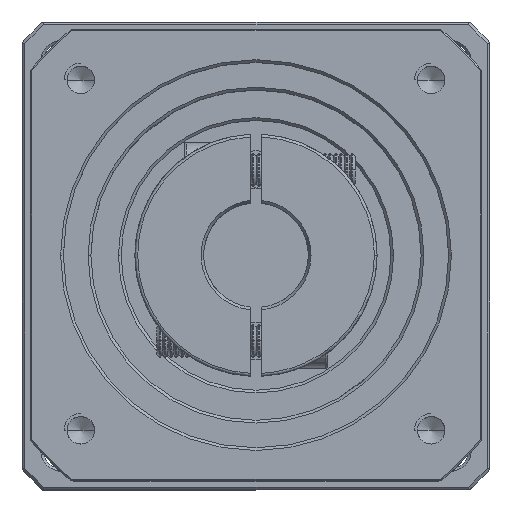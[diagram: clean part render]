
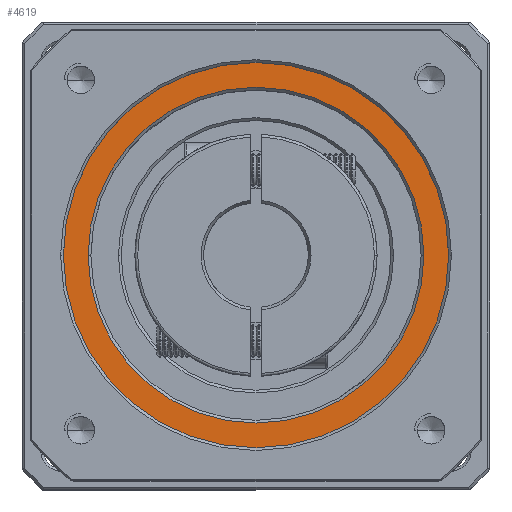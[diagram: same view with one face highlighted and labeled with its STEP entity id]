
A CAD part, top view. The second image highlights one B-rep face of the part: STEP entity #4619.
In plain terms, the highlighted planar face has unit normal (0, 0, 1).
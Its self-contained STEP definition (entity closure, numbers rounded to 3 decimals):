
#4619 = ADVANCED_FACE ( 'NONE', ( #21320, #60073 ), #119849, .T. ) ;
#6079 = CARTESIAN_POINT ( 'NONE',  ( -50.756, 39.269, -4.755 ) ) ;
#11914 = VERTEX_POINT ( 'NONE', #85105 ) ;
#12645 = DIRECTION ( 'NONE',  ( 1., 0., 0. ) ) ;
#13908 = AXIS2_PLACEMENT_3D ( 'NONE', #42935, #72434, #12645 ) ;
#17000 = EDGE_CURVE ( 'NONE', #33779, #117744, #90610, .T. ) ;
#19275 = AXIS2_PLACEMENT_3D ( 'NONE', #103544, #44034, #74389 ) ;
#19852 = CIRCLE ( 'NONE', #19275, 30.5 ) ;
#20636 = DIRECTION ( 'NONE',  ( 0., 0., -1. ) ) ;
#21066 = CARTESIAN_POINT ( 'NONE',  ( -50.756, 39.269, -4.755 ) ) ;
#21320 = FACE_OUTER_BOUND ( 'NONE', #92755, .T. ) ;
#29185 = DIRECTION ( 'NONE',  ( 1., 0., 0. ) ) ;
#32794 = CARTESIAN_POINT ( 'NONE',  ( -81.256, 39.269, -4.755 ) ) ;
#33779 = VERTEX_POINT ( 'NONE', #118832 ) ;
#34130 = ORIENTED_EDGE ( 'NONE', *, *, #108036, .T. ) ;
#34806 = EDGE_LOOP ( 'NONE', ( #86520, #34130 ) ) ;
#37414 = VERTEX_POINT ( 'NONE', #107586 ) ;
#42935 = CARTESIAN_POINT ( 'NONE',  ( -50.756, 39.269, -4.755 ) ) ;
#44034 = DIRECTION ( 'NONE',  ( 0., 0., -1. ) ) ;
#54991 = DIRECTION ( 'NONE',  ( 0., 0., 1. ) ) ;
#58602 = CARTESIAN_POINT ( 'NONE',  ( -50.756, 39.269, -4.755 ) ) ;
#60073 = FACE_BOUND ( 'NONE', #34806, .T. ) ;
#64582 = DIRECTION ( 'NONE',  ( 1., 0., 0. ) ) ;
#64718 = ORIENTED_EDGE ( 'NONE', *, *, #119620, .T. ) ;
#72434 = DIRECTION ( 'NONE',  ( 0., 0., 1. ) ) ;
#74389 = DIRECTION ( 'NONE',  ( 1., 0., 0. ) ) ;
#85105 = CARTESIAN_POINT ( 'NONE',  ( -85.756, 39.269, -4.755 ) ) ;
#86520 = ORIENTED_EDGE ( 'NONE', *, *, #17000, .T. ) ;
#87815 = DIRECTION ( 'NONE',  ( 0., 0., 1. ) ) ;
#88717 = CIRCLE ( 'NONE', #125216, 35. ) ;
#90550 = DIRECTION ( 'NONE',  ( 1., 0., 0. ) ) ;
#90610 = CIRCLE ( 'NONE', #122203, 30.5 ) ;
#92755 = EDGE_LOOP ( 'NONE', ( #64718, #125682 ) ) ;
#103544 = CARTESIAN_POINT ( 'NONE',  ( -50.756, 39.269, -4.755 ) ) ;
#107586 = CARTESIAN_POINT ( 'NONE',  ( -15.756, 39.269, -4.755 ) ) ;
#108036 = EDGE_CURVE ( 'NONE', #117744, #33779, #19852, .T. ) ;
#110380 = AXIS2_PLACEMENT_3D ( 'NONE', #58602, #87815, #29185 ) ;
#117744 = VERTEX_POINT ( 'NONE', #32794 ) ;
#118832 = CARTESIAN_POINT ( 'NONE',  ( -20.256, 39.269, -4.755 ) ) ;
#119620 = EDGE_CURVE ( 'NONE', #37414, #11914, #88717, .T. ) ;
#119849 = PLANE ( 'NONE',  #13908 ) ;
#120722 = EDGE_CURVE ( 'NONE', #11914, #37414, #126939, .T. ) ;
#122203 = AXIS2_PLACEMENT_3D ( 'NONE', #21066, #20636, #90550 ) ;
#125216 = AXIS2_PLACEMENT_3D ( 'NONE', #6079, #54991, #64582 ) ;
#125682 = ORIENTED_EDGE ( 'NONE', *, *, #120722, .T. ) ;
#126939 = CIRCLE ( 'NONE', #110380, 35. ) ;
